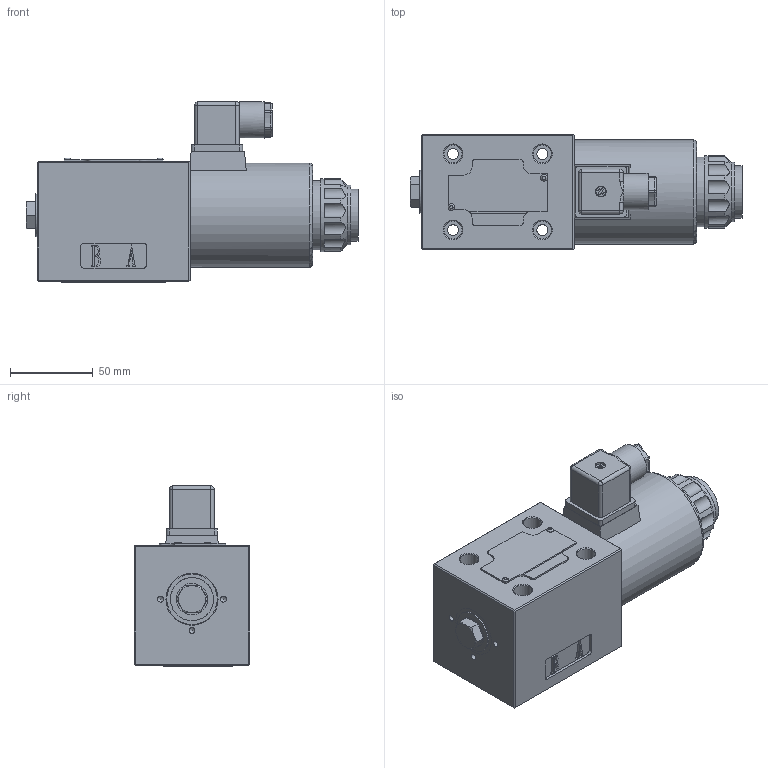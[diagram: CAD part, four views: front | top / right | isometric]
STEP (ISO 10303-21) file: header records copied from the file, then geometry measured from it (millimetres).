
FILE_DESCRIPTION(/* description */ (''),/* implementation_level */ '2;1');
FILE_NAME(/* name */ '4WE10-3XJ直流电磁阀（二位阀电磁铁在A端）.prt.stp',/* time_stamp */ '2022-03-30T19:33:45+08:00',/* author */ (''),/* organization */ (''),/* preprocessor_version */ 'ST-DEVELOPER v16.7',/* originating_system */ 'SIEMENS PLM Software NX 12.0',/* authorisation */ '');
FILE_SCHEMA (('AUTOMOTIVE_DESIGN { 1 0 10303 214 3 1 1 1 }'));
Products named in the file (1): 4WE10-3XJ直流电磁阀（二位阀电磁铁在A
端）
Bounding box: 200.7 x 70 x 109 mm (x, y, z)
Volume: 570900.5 mm3; surface area: 118948.6 mm2
Topology: 16 solids, 26 shells, 800 faces, 2040 edges, 1315 vertices
Faces by surface type: plane 467, cylinder 239, cone 35, bspline 24, torus 24, sphere 10, extrusion 1
Full cylindrical faces by diameter (mm): 1.8 x4, 1.9 x2, 2.55 x18, 3 x40, 3.5 x1, 3.6 x6, 5 x1, 6 x2, 6.5 x1, 6.6 x4, 11 x4, 12.085 x1, 15.7 x5, 16.5 x1, 17 x1, 21 x2, 21.4 x1, 22 x1, 23 x1, 24 x1, 26 x2, 31.5 x4, 33 x1, 36 x1, 42 x1, 44 x1, 63 x1
Entity records: 45342 total; most frequent: CARTESIAN_POINT 26069, ORIENTED_EDGE 3430, DIRECTION 3402, EDGE_CURVE 1715, VECTOR 1174, LINE 1173, VERTEX_POINT 1168, AXIS2_PLACEMENT_3D 1114
